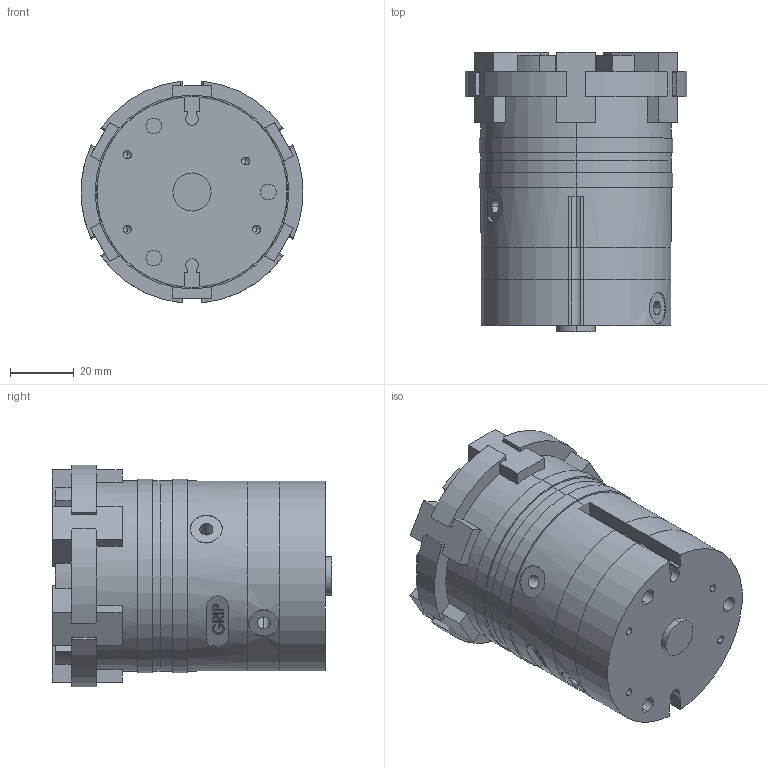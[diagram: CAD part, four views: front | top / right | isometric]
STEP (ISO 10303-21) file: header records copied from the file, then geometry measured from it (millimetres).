
FILE_DESCRIPTION (( 'STEP AP203' ), '1' );
FILE_NAME ('850.106.STEP', '2018-03-09T08:15:51', ( '' ), ( '' ), 'SwSTEP 2.0', 'SolidWorks 2018', '' );
FILE_SCHEMA (( 'CONFIG_CONTROL_DESIGN' ));
Length unit declared in the file: millimetre
Products named in the file (3): Corpo_Default<A macchina>; carro; 850.106
Assembly tree (7 placements, depth 2):
  850.106
    Corpo_Default<A macchina>
    carro  x6
Bounding box: 69.77 x 88 x 69.74 mm (x, y, z)
Volume: 235599.8 mm3; surface area: 89689.4 mm2
Topology: 21 solids, 21 shells, 650 faces, 1655 edges, 1042 vertices
Faces by surface type: plane 355, cylinder 205, cone 70, bspline 20
Entity records: 15719 total; most frequent: CARTESIAN_POINT 4231, DIRECTION 2287, ORIENTED_EDGE 2258, EDGE_CURVE 1129, AXIS2_PLACEMENT_3D 786, VERTEX_POINT 742, VECTOR 715, LINE 715
